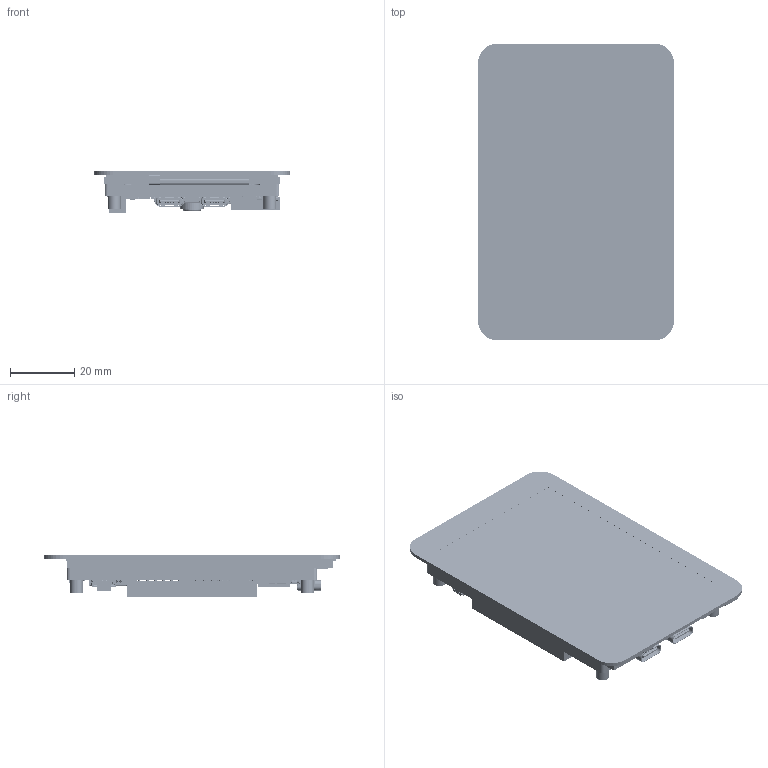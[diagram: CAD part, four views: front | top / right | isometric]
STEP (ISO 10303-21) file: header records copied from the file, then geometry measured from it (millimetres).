
FILE_DESCRIPTION((''),'2;1');
FILE_NAME('ESP32-P4-TOUCH-LCD-3_5_ASM','2026-07-17T14:04:54',('xiaojisheng'),(''),'CREO PARAMETRIC BY PTC INC, 2021063','CREO PARAMETRIC BY PTC INC, 2021063','');
FILE_SCHEMA(('CONFIG_CONTROL_DESIGN','SHAPE_APPEARANCE_LAYERS_GROUPS'));
Products named in the file (387): SMTSO-M2X4-4ET; 1115-4MM0001; 3_5INCH-320X480-TOUCH; HXR35014C30; 3_5INCH-320X480-TP_LCD_ASM; ESP32-P4-TOUCH-LCD-3_5-PMMA; BOARD-973; USER_LIBRARY-0201_0603M__CAP_1; USER_LIBRARY-0201_0603M__CAP_2; USER_LIBRARY-0201_0603M__CAP_3; USER_LIBRARY-0201_0603M__CAP_ASM; C48_ASM; BOARD-232316; EXTRUDED-233083; 858032368_ASM; CYLINDER; 858032240_ASM; EXTRUDED_2; 858031856_ASM; CYLINDER_2; 857275360_ASM; EXTRUDED_3; 894460672_ASM; DESIGNATOR14_ASM; USER_LIBRARY-WSON-8_6X8MM_ASM; U2_ASM; USER_LIBRARY-RES_0603-0201_1; USER_LIBRARY-RES_0603-0201_2; USER_LIBRARY-RES_0603-0201_3; USER_LIBRARY-RES_0603-0201_4; USER_LIBRARY-RES_0603-0201_ASM; R72_ASM; R70_ASM; SWITCH-TS24CA; K3_ASM; K2_ASM; OPEN_CASCADE_STEP_TRANSL-242388; OPEN_CASCADE_STEP_TRANSL-388176; MICRO_SD_SOCKET_ASM; SD1_ASM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
Assembly tree (633 placements, depth 9):
  ESP32-P4-TOUCH-LCD-3_5_ASM
    SMTSO-M2X4-4ET  x4
    1115-4MM0001
    3_5INCH-320X480-TP_LCD_ASM
      3_5INCH-320X480-TOUCH
      HXR35014C30
    ESP32-P4-TOUCH-LCD-3_5-PMMA
    ESP32-P4-WIFI6-TOUCH-LCD-3_5_RE_ASM
      PCB_ASM
        BOARD-973
        BASE-LAYOUT_ASM
          C48_ASM
            USER_LIBRARY-0201_0603M__CAP_ASM
              USER_LIBRARY-0201_0603M__CAP_1
              USER_LIBRARY-0201_0603M__CAP_2
              USER_LIBRARY-0201_0603M__CAP_3
          U2_ASM
            USER_LIBRARY-WSON-8_6X8MM_ASM
              BOARD-232316
              DESIGNATOR14_ASM
                858032368_ASM
                  EXTRUDED-233083
                858032240_ASM  x8
                  CYLINDER
                858031856_ASM  x8
                  EXTRUDED_2
                857275360_ASM
                  CYLINDER_2
                894460672_ASM
                  EXTRUDED_3
          R72_ASM
            USER_LIBRARY-RES_0603-0201_ASM
              USER_LIBRARY-RES_0603-0201_1
              USER_LIBRARY-RES_0603-0201_2
              USER_LIBRARY-RES_0603-0201_3
              USER_LIBRARY-RES_0603-0201_4
          R70_ASM
            USER_LIBRARY-RES_0603-0201_ASM
              USER_LIBRARY-RES_0603-0201_1
              USER_LIBRARY-RES_0603-0201_2
              USER_LIBRARY-RES_0603-0201_3
              USER_LIBRARY-RES_0603-0201_4
          K3_ASM
            SWITCH-TS24CA
          K2_ASM
            SWITCH-TS24CA
          SD1_ASM
            MICRO_SD_SOCKET_ASM
              OPEN_CASCADE_STEP_TRANSL-242388
              OPEN_CASCADE_STEP_TRANSL-388176
          U10_ASM
            USER_LIBRARY-WQFN-20
          TVS2_ASM
            648715776_ASM
              EXTRUDED-423057
          R69_ASM
            USER_LIBRARY-RES_0603-0201_ASM
              USER_LIBRARY-RES_0603-0201_1
              USER_LIBRARY-RES_0603-0201_2
              USER_LIBRARY-RES_0603-0201_3
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Bounding box: 61 x 92.44 x 12.85 mm (x, y, z)
Volume: 29650.4 mm3; surface area: 44276.2 mm2
Topology: 1033 solids, 1064 shells, 42553 faces, 111642 edges, 72236 vertices
Faces by surface type: plane 26480, extrusion 9401, cylinder 5373, sphere 1040, cone 146, bspline 98, torus 15
Entity records: 406473 total; most frequent: CARTESIAN_POINT 85830, ORIENTED_EDGE 52286, DIRECTION 48179, EDGE_CURVE 26157, VECTOR 21773, LINE 20981, PRESENTATION_STYLE_ASSIGNMENT 17349, VERTEX_POINT 17151
